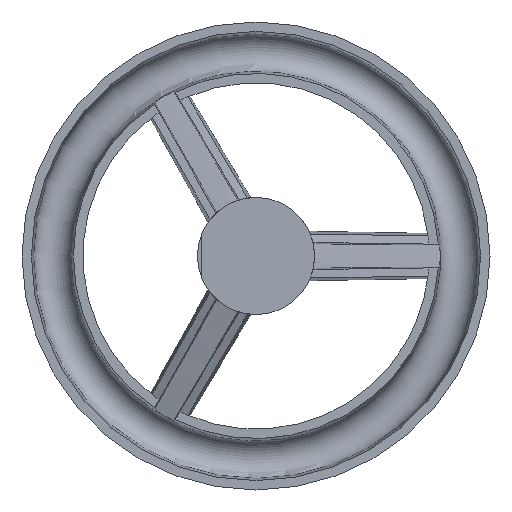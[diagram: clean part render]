
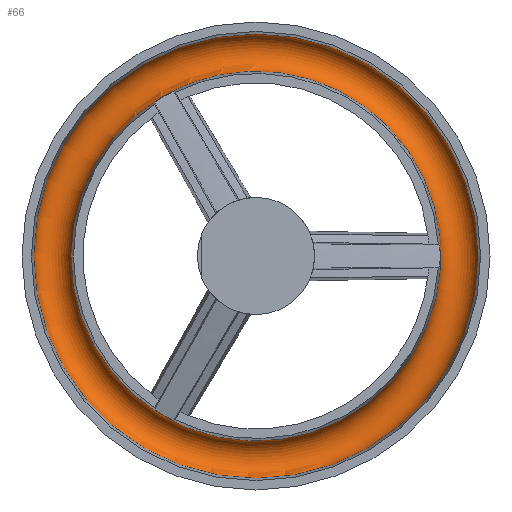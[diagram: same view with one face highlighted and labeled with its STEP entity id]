
A CAD part, front view. The second image highlights one B-rep face of the part: STEP entity #66.
In plain terms, the highlighted toroidal (fillet/blend) face has major radius 87 mm and minor radius 8.086 mm.
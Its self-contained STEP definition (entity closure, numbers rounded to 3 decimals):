
#66 = ADVANCED_FACE ( 'NONE', ( #6981, #6993 ), #7028, .F. ) ;
#554 = DIRECTION ( 'NONE',  ( -0.866, 0., 0.5 ) ) ;
#555 = DIRECTION ( 'NONE',  ( 0., -1., 0. ) ) ;
#556 = CARTESIAN_POINT ( 'NONE',  ( -69.688, 31.24, 24.73 ) ) ;
#987 = VERTEX_POINT ( 'NONE', #2602 ) ;
#1026 = VERTEX_POINT ( 'NONE', #2598 ) ;
#1080 = CIRCLE ( 'NONE', #6550, 78.944 ) ;
#2598 = CARTESIAN_POINT ( 'NONE',  ( -152.009, 31.24, 72.258 ) ) ;
#2602 = CARTESIAN_POINT ( 'NONE',  ( -138.056, 31.24, 64.202 ) ) ;
#2664 = ORIENTED_EDGE ( 'NONE', *, *, #2901, .T. ) ;
#2667 = ORIENTED_EDGE ( 'NONE', *, *, #5410, .F. ) ;
#2755 = AXIS2_PLACEMENT_3D ( 'NONE', #6648, #6646, #6639 ) ;
#2901 = EDGE_CURVE ( 'NONE', #1026, #1026, #4116, .T. ) ;
#3420 = CARTESIAN_POINT ( 'NONE',  ( -69.688, 31.24, 24.73 ) ) ;
#3421 = DIRECTION ( 'NONE',  ( 0., -1., 0. ) ) ;
#3422 = DIRECTION ( 'NONE',  ( -0.866, 0., 0.5 ) ) ;
#3588 = EDGE_LOOP ( 'NONE', ( #2664 ) ) ;
#3606 = EDGE_LOOP ( 'NONE', ( #2667 ) ) ;
#4116 = CIRCLE ( 'NONE', #6452, 95.056 ) ;
#5410 = EDGE_CURVE ( 'NONE', #987, #987, #1080, .T. ) ;
#6452 = AXIS2_PLACEMENT_3D ( 'NONE', #556, #555, #554 ) ;
#6550 = AXIS2_PLACEMENT_3D ( 'NONE', #3420, #3421, #3422 ) ;
#6639 = DIRECTION ( 'NONE',  ( -0.866, 0., 0.5 ) ) ;
#6646 = DIRECTION ( 'NONE',  ( 0., -1., 0. ) ) ;
#6648 = CARTESIAN_POINT ( 'NONE',  ( -69.688, 30.535, 24.73 ) ) ;
#6981 = FACE_OUTER_BOUND ( 'NONE', #3588, .T. ) ;
#6993 = FACE_OUTER_BOUND ( 'NONE', #3606, .T. ) ;
#7028 = TOROIDAL_SURFACE ( 'NONE', #2755, 87., 8.087 ) ;
